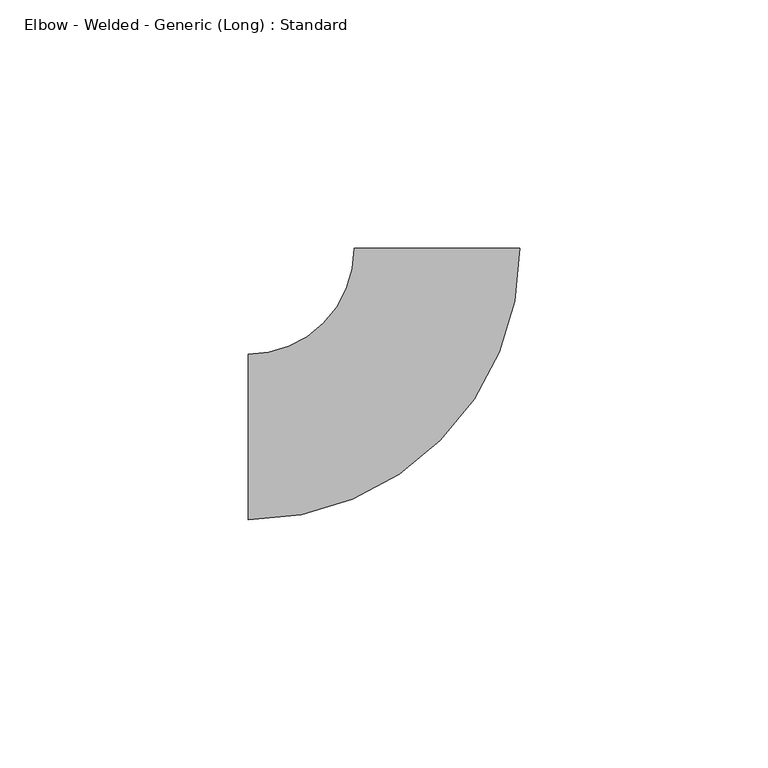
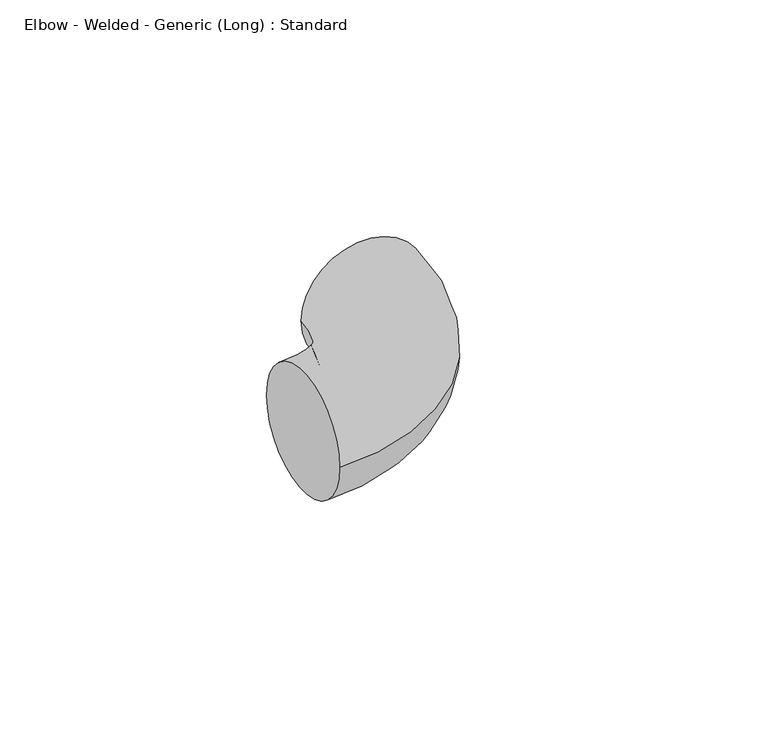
"""IFC4 building model written with IfcOpenShell, lengths in millimetres: pipe fitting geometry, Elbow - Welded - Generic (Long) : Standard."""

import ifcopenshell
import ifcopenshell.guid

model = None  # the IFC model being written
_history = None  # IfcOwnerHistory: only IFC2X3 demands one
_inside = {}  # id of a spatial element -> (the spatial element, [elements in it])
_under = {}  # id of a project, library or spatial element -> (it, [spatial elements below it])
_declared = {}  # id of a project -> (the project, [libraries it declares])
_typed = {}  # id of a type object -> (the type object, [elements of that type])
_made_of = {}  # id of a material, layer set ... -> (it, [elements and type objects made of it])


def new_model(schema):
    """Start an empty IFC model of exactly this schema.

    Asked for "IFC4X3", IfcOpenShell would pick the latest addendum, in which some entities
    have other attributes; the version numbers below select the first issue.
    IFC2X3 requires an IfcOwnerHistory on every rooted entity: one is made here for all.
    """
    global model, _history
    if schema == "IFC4X3":
        model = ifcopenshell.file(schema_version=(4, 3, 0, 0))
    else:
        model = ifcopenshell.file(schema=schema)
    _inside.clear()
    _under.clear()
    _declared.clear()
    _typed.clear()
    _made_of.clear()
    _history = None
    if model.schema == "IFC2X3":
        org = make("IfcOrganization", Name="unknown")
        user = make(
            "IfcPersonAndOrganization",
            ThePerson=make("IfcPerson", FamilyName="unknown"),
            TheOrganization=org,
        )
        app = make(
            "IfcApplication",
            ApplicationDeveloper=org,
            Version="unknown",
            ApplicationFullName="unknown",
            ApplicationIdentifier="unknown",
        )
        _history = make(
            "IfcOwnerHistory",
            OwningUser=user,
            OwningApplication=app,
            ChangeAction="ADDED",
            CreationDate=0,
        )
    return model


def make(cls, **values):
    """One entity of the class cls with the attributes given. An attribute that is None is left unset."""
    return model.create_entity(
        cls, **{name: value for name, value in values.items() if value is not None}
    )


def rooted(cls, **values):
    """An entity with a GlobalId (a new one), such as an element, a storey or a relation."""
    return make(cls, GlobalId=ifcopenshell.guid.new(), OwnerHistory=_history, **values)


def si_unit(unit_type, name, prefix=None):
    """IfcSIUnit, for example si_unit("LENGTHUNIT", "METRE", prefix="MILLI")."""
    return make("IfcSIUnit", UnitType=unit_type, Prefix=prefix, Name=name)


def assignment(units):
    """IfcUnitAssignment: the units of a project."""
    return None if units is None else make("IfcUnitAssignment", Units=units)


def point(xyz):
    """IfcCartesianPoint."""
    return None if xyz is None else make("IfcCartesianPoint", Coordinates=xyz)


def direction(xyz):
    """IfcDirection."""
    return None if xyz is None else make("IfcDirection", DirectionRatios=xyz)


def frame(location, z_axis=None, x_axis=None):
    """IfcAxis2Placement3D, a coordinate frame: its origin and axes. An axis left out is left unset."""
    return make(
        "IfcAxis2Placement3D",
        Location=point(location),
        Axis=direction(z_axis),
        RefDirection=direction(x_axis),
    )


def origin():
    """The frame at (0, 0, 0) with its axes left unset."""
    return frame((0.0, 0.0, 0.0))


def place(relative_to, where):
    """IfcLocalPlacement: puts the frame where relative to a parent placement (None: the world)."""
    return make(
        "IfcLocalPlacement", PlacementRelTo=relative_to, RelativePlacement=where
    )


def context(
    kind, dimensions, precision=None, world=None, true_north=None, identifier=None
):
    """IfcGeometricRepresentationContext, for example the 3D "Model" context."""
    return make(
        "IfcGeometricRepresentationContext",
        ContextIdentifier=identifier,
        ContextType=kind,
        CoordinateSpaceDimension=dimensions,
        Precision=precision,
        WorldCoordinateSystem=world,
        TrueNorth=true_north,
    )


def project(units=None, contexts=None):
    """IfcProject with its units and contexts."""
    return rooted(
        "IfcProject",
        Name="project",
        RepresentationContexts=contexts,
        UnitsInContext=assignment(units),
    )


def spatial(cls, under=None, at=None, **own):
    """A site, building, storey or space (cls), placed at a placement, below another one or the project."""
    s = rooted(cls, ObjectPlacement=at, **own)
    if under is not None:
        _under.setdefault(under.id(), (under, []))[1].append(s)
    return s


def circle_curve(where, radius):
    """IfcCircle in the frame where."""
    return make("IfcCircle", Position=where, Radius=radius)


def ellipse_curve(where, semi_axis1, semi_axis2):
    """IfcEllipse in the frame where."""
    return make(
        "IfcEllipse", Position=where, SemiAxis1=semi_axis1, SemiAxis2=semi_axis2
    )


def trimmed(basis, trim1, trim2, sense, master):
    """IfcTrimmedCurve: the piece of a basis curve between two trims."""
    return make(
        "IfcTrimmedCurve",
        BasisCurve=basis,
        Trim1=trim1,
        Trim2=trim2,
        SenseAgreement=sense,
        MasterRepresentation=master,
    )


def shape(context_of_items, identifier, shape_type, items):
    """IfcShapeRepresentation: the items that make up one representation, for example the "Body"."""
    return make(
        "IfcShapeRepresentation",
        ContextOfItems=context_of_items,
        RepresentationIdentifier=identifier,
        RepresentationType=shape_type,
        Items=items,
    )


def source(mapping_origin, context_of_items, identifier, shape_type, items):
    """IfcRepresentationMap: a shape defined once, which mapped items show again and again."""
    return make(
        "IfcRepresentationMap",
        MappingOrigin=mapping_origin,
        MappedRepresentation=shape(context_of_items, identifier, shape_type, items),
    )


def transform(
    local_origin,
    x_axis=None,
    y_axis=None,
    z_axis=None,
    scale=None,
    scale2=None,
    scale3=None,
    uniform=True,
):
    """IfcCartesianTransformationOperator3D, or its non-uniform kind. x_axis, y_axis, z_axis: its Axis1, 2, 3."""
    if uniform:
        return make(
            "IfcCartesianTransformationOperator3D",
            Axis1=direction(x_axis),
            Axis2=direction(y_axis),
            LocalOrigin=point(local_origin),
            Scale=scale,
            Axis3=direction(z_axis),
        )
    return make(
        "IfcCartesianTransformationOperator3DnonUniform",
        Axis1=direction(x_axis),
        Axis2=direction(y_axis),
        LocalOrigin=point(local_origin),
        Scale=scale,
        Axis3=direction(z_axis),
        Scale2=scale2,
        Scale3=scale3,
    )


def mapped(mapping_source, mapping_target):
    """IfcMappedItem: shows the shape of a source again, moved by a transform."""
    return make(
        "IfcMappedItem", MappingSource=mapping_source, MappingTarget=mapping_target
    )


def made_of(thing, what):
    """Note that an element or type object is made of a material, layer set ...; save() writes the relation."""
    if what is not None:
        _made_of.setdefault(what.id(), (what, []))[1].append(thing)
    return thing


def element(
    cls,
    number,
    at=None,
    inside=None,
    cuts=None,
    type_object=None,
    material=None,
    context=None,
    identifier="Body",
    shape_type=None,
    held_by="IfcProductDefinitionShape",
    body=None,
    shapes=None,
    **own,
):
    """One element of the class cls, such as IfcWall. Its Tag is "e" and its number.

    at: its placement. inside: the storey or other place that contains it. cuts: it is an
    opening in that element (IfcRelVoidsElement). A single representation is given by context,
    identifier, shape_type and body (its items); several are given by shapes. held_by: the class
    of the entity that holds the representations. save() writes the other relations.
    """
    e = rooted(cls, Tag="e%d" % number, ObjectPlacement=at, **own)
    if body is not None:
        shapes = [shape(context, identifier, shape_type, body)]
    if shapes is not None:
        e.Representation = make(held_by, Representations=shapes)
    if inside is not None:
        _inside.setdefault(inside.id(), (inside, []))[1].append(e)
    if cuts is not None:
        rooted(
            "IfcRelVoidsElement", RelatingBuildingElement=cuts, RelatedOpeningElement=e
        )
    if type_object is not None:
        _typed.setdefault(type_object.id(), (type_object, []))[1].append(e)
    return made_of(e, material)


def aggregate(whole, parts):
    """IfcRelAggregates: a whole, such as a stair, and the parts it consists of."""
    return rooted("IfcRelAggregates", RelatingObject=whole, RelatedObjects=parts)


def save(model, path):
    """Write the relations noted so far, then the file.

    IfcRelAggregates (storeys below a building ...), IfcRelContainedInSpatialStructure (elements
    in a storey), IfcRelDefinesByType, IfcRelAssociatesMaterial and IfcRelDeclares: one each for
    every whole, place, type object, material and project.
    """
    for whole, parts in _under.values():
        aggregate(whole, parts)
    for where, things in _inside.values():
        rooted(
            "IfcRelContainedInSpatialStructure",
            RelatedElements=things,
            RelatingStructure=where,
        )
    for kind, things in _typed.values():
        rooted("IfcRelDefinesByType", RelatedObjects=things, RelatingType=kind)
    for what, things in _made_of.values():
        rooted("IfcRelAssociatesMaterial", RelatedObjects=things, RelatingMaterial=what)
    for by, libraries in _declared.values():
        rooted("IfcRelDeclares", RelatingContext=by, RelatedDefinitions=libraries)
    model.write(path)


def plane_surface(at):
    """IfcPlane: the flat surface through the origin of the frame at, square to its z axis."""
    return make("IfcPlane", Position=at)


def revolved_surface(curve, axis_point, axis_direction):
    """IfcSurfaceOfRevolution: the curve turned about the line through axis_point along axis_direction."""
    return make(
        "IfcSurfaceOfRevolution",
        SweptCurve=make("IfcArbitraryOpenProfileDef", ProfileType="CURVE", Curve=curve),
        AxisPosition=make("IfcAxis1Placement", Location=point(axis_point), Axis=direction(axis_direction)),
    )


def advanced_brep(points, edges, surfaces, faces):
    """IfcAdvancedBrep: a solid bounded by faces that lie on surfaces and meet in shared edges.

    An edge is (start, end): straight between two places in points (the first is 0);
    or (start, end, curve); or (start, end, curve, False) where it runs against its curve.
    A face is (place in surfaces, loops), or (place, loops, False) where it looks against
    its surface's normal. A loop lists edges by number (the first is 1), with a minus sign
    where the edge is run from its end to its start. The first loop is the outer one.
    """
    corners = [point(p) for p in points]
    vertices = [make("IfcVertexPoint", VertexGeometry=c) for c in corners]
    made = []
    for start, end, *more in edges:
        made.append(
            make(
                "IfcEdgeCurve",
                EdgeStart=vertices[start],
                EdgeEnd=vertices[end],
                EdgeGeometry=more[0] if more else make("IfcPolyline", Points=[corners[start], corners[end]]),
                SameSense=more[1] if len(more) > 1 else True,
            )
        )
    hull = []
    for where, loops, *sense in faces:
        bounds = []
        for j, loop in enumerate(loops):
            ring = [make("IfcOrientedEdge", EdgeElement=made[abs(k) - 1], Orientation=k > 0) for k in loop]
            bounds.append(
                make(
                    "IfcFaceOuterBound" if j == 0 else "IfcFaceBound",
                    Bound=make("IfcEdgeLoop", EdgeList=ring),
                    Orientation=True,
                )
            )
        hull.append(make("IfcAdvancedFace", Bounds=bounds, FaceSurface=surfaces[where], SameSense=sense[0] if sense else True))
    return make("IfcAdvancedBrep", Outer=make("IfcClosedShell", CfsFaces=hull))


def elbow_welded_generic_long_standard_a93a2a9f(model_context):
    return source(origin(), model_context, "Body", "AdvancedBrep", [
        advanced_brep(
        [(-38.1, -16.66875, 0.0), (-38.1, 16.66875, 0.0), (16.6687415, 38.1000037, 0.0), (-16.6687585, 38.0999963, 0.0)],
        [
            (0, 1, circle_curve(frame((-38.1, 0.0, 0.0), z_axis=(-1.0, 0.0, 0.0), x_axis=(0.0, 1.0, 0.0)), 16.66875)),
            (1, 0, circle_curve(frame((-38.1, 0.0, 0.0), z_axis=(-1.0, 0.0, 0.0), x_axis=(0.0, 1.0, 0.0)), 16.66875)),
            (2, 3, circle_curve(frame((-8.5e-06, 38.1, 0.0), z_axis=(-2.2402380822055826e-07, 0.9999999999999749, 0.0), x_axis=(-0.9999999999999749, -2.2402380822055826e-07, 0.0)), 16.66875)),
            (3, 2, circle_curve(frame((-8.5e-06, 38.1, 0.0), z_axis=(-2.2402380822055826e-07, 0.9999999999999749, 0.0), x_axis=(-0.9999999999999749, -2.2402380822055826e-07, 0.0)), 16.66875)),
            (3, 1, circle_curve(frame((-38.1, 38.0999915, 0.0), z_axis=(0.0, 0.0, -1.0), x_axis=(0.0, -1.0, 0.0)), 21.4312415)),
            (0, 2, circle_curve(frame((-38.1, 38.0999915, 0.0), z_axis=(0.0, 0.0, 1.0), x_axis=(0.0, -1.0, 0.0)), 54.7687415)),
        ],
        [
            plane_surface(frame((-38.1, 0.0, 0.0), z_axis=(-1.0, 0.0, 0.0), x_axis=(0.0, 0.0, 1.0))),
            plane_surface(frame((-8.5e-06, 38.1, 0.0), z_axis=(-2.2402380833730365e-07, 0.9999999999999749, 0.0), x_axis=(0.0, 0.0, 1.0))),
            revolved_surface(trimmed(ellipse_curve(frame((-38.1, 0.0, 0.0), z_axis=(-1.0, 0.0, 0.0), x_axis=(0.0, 1.0, 0.0)), 16.66875, 16.66875), [point((-38.1, -16.66875, 0.0))], [point((-38.1, 16.66875, 0.0))], True, "CARTESIAN"), (-38.1, 38.0999915, 0.0), (0.0, 0.0, 1.0)),
            revolved_surface(trimmed(ellipse_curve(frame((-38.1, 0.0, 0.0), z_axis=(-1.0, 0.0, 0.0), x_axis=(0.0, 1.0, 0.0)), 16.66875, 16.66875), [point((-38.1, 16.66875, 0.0))], [point((-38.1, -16.66875, 0.0))], True, "CARTESIAN"), (-38.1, 38.0999915, 0.0), (0.0, 0.0, 1.0)),
        ],
        [
            (0, [[1, 2]]),
            (1, [[3, 4]]),
            (2, [[5, -1, 6, -4]]),
            (3, [[-6, -2, -5, -3]]),
        ],
    ),
    ])


if __name__ == "__main__":
    model = new_model("IFC4")
    model_context = context("Model", 3, world=origin())
    ifc_project = project(units=[si_unit("LENGTHUNIT", "METRE", prefix="MILLI")], contexts=[model_context])
    site = spatial("IfcSite", under=ifc_project)
    building = spatial("IfcBuilding", under=site)
    placement = place(None, origin())
    elbow_welded_generic_long_standard_shape = elbow_welded_generic_long_standard_a93a2a9f(model_context)
    element("IfcPipeFitting", 1, ObjectType="Elbow - Welded - Generic (Long) : Standard", at=placement, inside=building, context=model_context, shape_type="MappedRepresentation", body=[
        mapped(elbow_welded_generic_long_standard_shape, transform((0.0, 0.0, 0.0), x_axis=(1.0, 0.0, 0.0), y_axis=(0.0, 1.0, 0.0), z_axis=(0.0, 0.0, 1.0))),
    ])
    save(model, "model.ifc")
